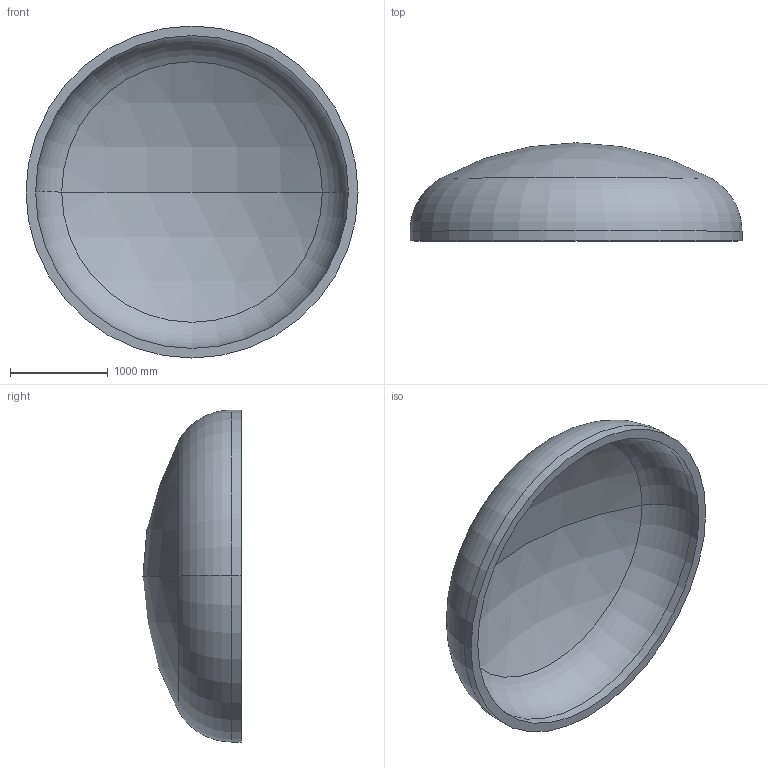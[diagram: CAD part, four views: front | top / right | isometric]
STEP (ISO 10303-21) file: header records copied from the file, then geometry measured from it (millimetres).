
FILE_DESCRIPTION (( 'STEP AP203' ), '1' );
FILE_NAME ('DIN 28013 Korbbogenform_-_Boden DIN 28013 - 3400 x 100 - I - s=98.step', '2016-07-01T19:51:49', ( '' ), ( '' ), 'SwSTEP 2.0', 'SolidWorks 2013', '' );
FILE_SCHEMA (( 'CONFIG_CONTROL_DESIGN' ));
Length unit declared in the file: millimetre
Products named in the file (1): DIN 28013 Korbbogenform_-_Boden DIN 28013 - 3400 x 100 - I - s=98
Bounding box: 3400 x 1005.38 x 3400 mm (x, y, z)
Volume: 1289021956.7 mm3; surface area: 27343283.2 mm2
Topology: 1 solids, 1 shells, 13 faces, 24 edges, 14 vertices
Faces by surface type: torus 4, cylinder 4, sphere 4, plane 1
Entity records: 407 total; most frequent: DIRECTION 72, CARTESIAN_POINT 52, ORIENTED_EDGE 48, AXIS2_PLACEMENT_3D 34, EDGE_CURVE 24, CIRCLE 20, EDGE_LOOP 14, VERTEX_POINT 14
